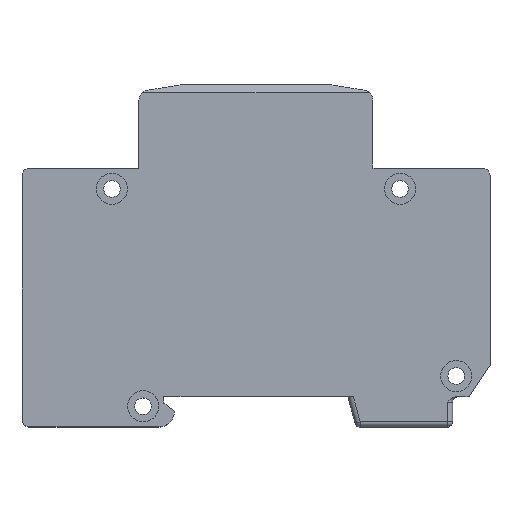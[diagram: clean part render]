
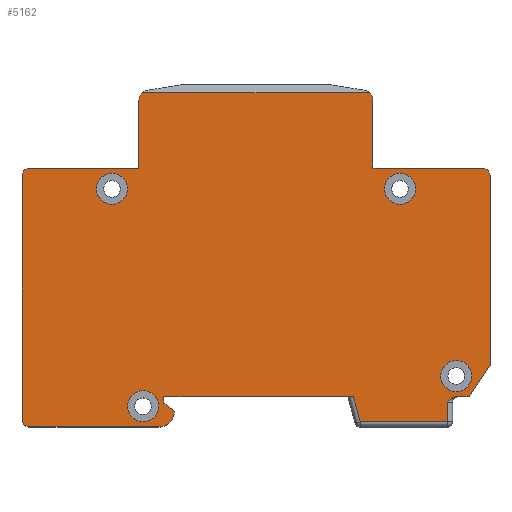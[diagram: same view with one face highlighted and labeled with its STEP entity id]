
A CAD part, top view. The second image highlights one B-rep face of the part: STEP entity #5162.
In plain terms, the highlighted planar face has unit normal (0, 0, 1).
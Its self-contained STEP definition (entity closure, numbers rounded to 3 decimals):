
#51=B_SPLINE_CURVE_WITH_KNOTS('',3,(#8335,#8336,#8337,#8338,#8339,#8340),
 .UNSPECIFIED.,.F.,.F.,(4,2,4),(0.506,0.582,0.7),
 .UNSPECIFIED.);
#76=FACE_BOUND('',#763,.T.);
#77=FACE_BOUND('',#764,.T.);
#78=FACE_BOUND('',#765,.T.);
#79=FACE_BOUND('',#766,.T.);
#191=CIRCLE('',#5438,1.5);
#193=CIRCLE('',#5469,1.5);
#195=CIRCLE('',#5475,3.);
#205=CIRCLE('',#5533,1.5);
#232=CIRCLE('',#5577,2.);
#233=CIRCLE('',#5578,2.);
#234=CIRCLE('',#5579,3.);
#235=CIRCLE('',#5580,3.);
#236=CIRCLE('',#5581,3.);
#237=CIRCLE('',#5582,3.);
#238=CIRCLE('',#5583,3.);
#239=CIRCLE('',#5584,3.);
#240=CIRCLE('',#5585,3.);
#241=CIRCLE('',#5586,3.);
#484=FACE_OUTER_BOUND('',#762,.T.);
#762=EDGE_LOOP('',(#4245,#4246,#4247,#4248,#4249,#4250,#4251,#4252,#4253,
#4254,#4255,#4256,#4257,#4258,#4259,#4260,#4261,#4262,#4263,#4264,#4265,
#4266,#4267));
#763=EDGE_LOOP('',(#4268,#4269));
#764=EDGE_LOOP('',(#4270,#4271));
#765=EDGE_LOOP('',(#4272,#4273));
#766=EDGE_LOOP('',(#4274,#4275));
#1165=LINE('',#7880,#1735);
#1224=LINE('',#7997,#1794);
#1242=LINE('',#8034,#1812);
#1248=LINE('',#8050,#1818);
#1252=LINE('',#8058,#1822);
#1256=LINE('',#8070,#1826);
#1278=LINE('',#8129,#1848);
#1282=LINE('',#8138,#1852);
#1334=LINE('',#8238,#1904);
#1340=LINE('',#8256,#1910);
#1345=LINE('',#8321,#1915);
#1346=LINE('',#8325,#1916);
#1347=LINE('',#8328,#1917);
#1348=LINE('',#8330,#1918);
#1349=LINE('',#8332,#1919);
#1350=LINE('',#8334,#1920);
#1735=VECTOR('',#6279,10.);
#1794=VECTOR('',#6390,10.);
#1812=VECTOR('',#6430,10.);
#1818=VECTOR('',#6448,10.);
#1822=VECTOR('',#6456,10.);
#1826=VECTOR('',#6468,10.);
#1848=VECTOR('',#6532,10.);
#1852=VECTOR('',#6542,10.);
#1904=VECTOR('',#6638,10.);
#1910=VECTOR('',#6660,10.);
#1915=VECTOR('',#6743,10.);
#1916=VECTOR('',#6746,10.);
#1917=VECTOR('',#6749,10.);
#1918=VECTOR('',#6750,10.);
#1919=VECTOR('',#6751,10.);
#1920=VECTOR('',#6752,10.);
#2267=VERTEX_POINT('',#7877);
#2268=VERTEX_POINT('',#7879);
#2270=VERTEX_POINT('',#7887);
#2300=VERTEX_POINT('',#7995);
#2306=VERTEX_POINT('',#8024);
#2308=VERTEX_POINT('',#8032);
#2310=VERTEX_POINT('',#8040);
#2312=VERTEX_POINT('',#8048);
#2314=VERTEX_POINT('',#8056);
#2318=VERTEX_POINT('',#8068);
#2333=VERTEX_POINT('',#8126);
#2334=VERTEX_POINT('',#8128);
#2336=VERTEX_POINT('',#8136);
#2362=VERTEX_POINT('',#8236);
#2364=VERTEX_POINT('',#8244);
#2366=VERTEX_POINT('',#8254);
#2387=VERTEX_POINT('',#8320);
#2388=VERTEX_POINT('',#8322);
#2389=VERTEX_POINT('',#8324);
#2390=VERTEX_POINT('',#8326);
#2391=VERTEX_POINT('',#8329);
#2392=VERTEX_POINT('',#8331);
#2393=VERTEX_POINT('',#8333);
#2394=VERTEX_POINT('',#8341);
#2395=VERTEX_POINT('',#8342);
#2396=VERTEX_POINT('',#8345);
#2397=VERTEX_POINT('',#8346);
#2398=VERTEX_POINT('',#8349);
#2399=VERTEX_POINT('',#8350);
#2400=VERTEX_POINT('',#8353);
#2401=VERTEX_POINT('',#8354);
#2839=EDGE_CURVE('',#2268,#2267,#1165,.T.);
#2844=EDGE_CURVE('',#2270,#2267,#191,.T.);
#2900=EDGE_CURVE('',#2270,#2300,#1224,.T.);
#2916=EDGE_CURVE('',#2306,#2300,#193,.T.);
#2920=EDGE_CURVE('',#2306,#2308,#1242,.T.);
#2924=EDGE_CURVE('',#2308,#2310,#195,.T.);
#2928=EDGE_CURVE('',#2310,#2312,#1248,.T.);
#2932=EDGE_CURVE('',#2312,#2314,#1252,.T.);
#2938=EDGE_CURVE('',#2314,#2318,#1256,.T.);
#2967=EDGE_CURVE('',#2333,#2334,#1278,.T.);
#2972=EDGE_CURVE('',#2333,#2336,#1282,.T.);
#3024=EDGE_CURVE('',#2336,#2362,#1334,.T.);
#3028=EDGE_CURVE('',#2364,#2362,#205,.T.);
#3034=EDGE_CURVE('',#2364,#2366,#1340,.T.);
#3063=EDGE_CURVE('',#2366,#2387,#1345,.T.);
#3064=EDGE_CURVE('',#2388,#2387,#232,.T.);
#3065=EDGE_CURVE('',#2389,#2388,#1346,.T.);
#3066=EDGE_CURVE('',#2390,#2389,#233,.T.);
#3067=EDGE_CURVE('',#2390,#2268,#1347,.T.);
#3068=EDGE_CURVE('',#2391,#2318,#1348,.T.);
#3069=EDGE_CURVE('',#2392,#2391,#1349,.T.);
#3070=EDGE_CURVE('',#2393,#2392,#1350,.T.);
#3071=EDGE_CURVE('',#2334,#2393,#51,.T.);
#3072=EDGE_CURVE('',#2394,#2395,#234,.T.);
#3073=EDGE_CURVE('',#2395,#2394,#235,.T.);
#3074=EDGE_CURVE('',#2396,#2397,#236,.T.);
#3075=EDGE_CURVE('',#2397,#2396,#237,.T.);
#3076=EDGE_CURVE('',#2398,#2399,#238,.T.);
#3077=EDGE_CURVE('',#2399,#2398,#239,.T.);
#3078=EDGE_CURVE('',#2400,#2401,#240,.T.);
#3079=EDGE_CURVE('',#2401,#2400,#241,.T.);
#4245=ORIENTED_EDGE('',*,*,#3028,.F.);
#4246=ORIENTED_EDGE('',*,*,#3034,.T.);
#4247=ORIENTED_EDGE('',*,*,#3063,.T.);
#4248=ORIENTED_EDGE('',*,*,#3064,.F.);
#4249=ORIENTED_EDGE('',*,*,#3065,.F.);
#4250=ORIENTED_EDGE('',*,*,#3066,.F.);
#4251=ORIENTED_EDGE('',*,*,#3067,.T.);
#4252=ORIENTED_EDGE('',*,*,#2839,.T.);
#4253=ORIENTED_EDGE('',*,*,#2844,.F.);
#4254=ORIENTED_EDGE('',*,*,#2900,.T.);
#4255=ORIENTED_EDGE('',*,*,#2916,.F.);
#4256=ORIENTED_EDGE('',*,*,#2920,.T.);
#4257=ORIENTED_EDGE('',*,*,#2924,.T.);
#4258=ORIENTED_EDGE('',*,*,#2928,.T.);
#4259=ORIENTED_EDGE('',*,*,#2932,.T.);
#4260=ORIENTED_EDGE('',*,*,#2938,.T.);
#4261=ORIENTED_EDGE('',*,*,#3068,.F.);
#4262=ORIENTED_EDGE('',*,*,#3069,.F.);
#4263=ORIENTED_EDGE('',*,*,#3070,.F.);
#4264=ORIENTED_EDGE('',*,*,#3071,.F.);
#4265=ORIENTED_EDGE('',*,*,#2967,.F.);
#4266=ORIENTED_EDGE('',*,*,#2972,.T.);
#4267=ORIENTED_EDGE('',*,*,#3024,.T.);
#4268=ORIENTED_EDGE('',*,*,#3072,.T.);
#4269=ORIENTED_EDGE('',*,*,#3073,.T.);
#4270=ORIENTED_EDGE('',*,*,#3074,.T.);
#4271=ORIENTED_EDGE('',*,*,#3075,.T.);
#4272=ORIENTED_EDGE('',*,*,#3076,.T.);
#4273=ORIENTED_EDGE('',*,*,#3077,.T.);
#4274=ORIENTED_EDGE('',*,*,#3078,.T.);
#4275=ORIENTED_EDGE('',*,*,#3079,.T.);
#4930=PLANE('',#5576);
#5162=ADVANCED_FACE('',(#484,#76,#77,#78,#79),#4930,.T.);
#5438=AXIS2_PLACEMENT_3D('',#7889,#6289,#6290);
#5469=AXIS2_PLACEMENT_3D('',#8026,#6421,#6422);
#5475=AXIS2_PLACEMENT_3D('',#8042,#6439,#6440);
#5533=AXIS2_PLACEMENT_3D('',#8246,#6647,#6648);
#5576=AXIS2_PLACEMENT_3D('',#8319,#6741,#6742);
#5577=AXIS2_PLACEMENT_3D('',#8323,#6744,#6745);
#5578=AXIS2_PLACEMENT_3D('',#8327,#6747,#6748);
#5579=AXIS2_PLACEMENT_3D('',#8343,#6753,#6754);
#5580=AXIS2_PLACEMENT_3D('',#8344,#6755,#6756);
#5581=AXIS2_PLACEMENT_3D('',#8347,#6757,#6758);
#5582=AXIS2_PLACEMENT_3D('',#8348,#6759,#6760);
#5583=AXIS2_PLACEMENT_3D('',#8351,#6761,#6762);
#5584=AXIS2_PLACEMENT_3D('',#8352,#6763,#6764);
#5585=AXIS2_PLACEMENT_3D('',#8355,#6765,#6766);
#5586=AXIS2_PLACEMENT_3D('',#8356,#6767,#6768);
#6279=DIRECTION('',(-1.,0.,0.));
#6289=DIRECTION('center_axis',(0.,0.,-1.));
#6290=DIRECTION('ref_axis',(-0.707,0.707,0.));
#6390=DIRECTION('',(0.,-1.,0.));
#6421=DIRECTION('center_axis',(0.,0.,-1.));
#6422=DIRECTION('ref_axis',(-0.707,-0.707,0.));
#6430=DIRECTION('',(1.,0.,0.));
#6439=DIRECTION('center_axis',(0.,0.,1.));
#6440=DIRECTION('ref_axis',(0.,-1.,0.));
#6448=DIRECTION('',(-0.781,0.625,0.));
#6456=DIRECTION('',(0.,1.,0.));
#6468=DIRECTION('',(1.,0.,0.));
#6532=DIRECTION('',(-1.,0.,0.));
#6542=DIRECTION('',(0.555,0.832,0.));
#6638=DIRECTION('',(0.,1.,0.));
#6647=DIRECTION('center_axis',(0.,0.,-1.));
#6648=DIRECTION('ref_axis',(0.707,0.707,0.));
#6660=DIRECTION('',(-1.,0.,0.));
#6741=DIRECTION('center_axis',(0.,0.,1.));
#6742=DIRECTION('ref_axis',(1.,0.,0.));
#6743=DIRECTION('',(0.,1.,0.));
#6744=DIRECTION('center_axis',(0.,0.,-1.));
#6745=DIRECTION('ref_axis',(0.762,0.648,0.));
#6746=DIRECTION('',(1.,0.,0.));
#6747=DIRECTION('center_axis',(0.,0.,-1.));
#6748=DIRECTION('ref_axis',(-0.762,0.648,0.));
#6749=DIRECTION('',(0.,-1.,0.));
#6750=DIRECTION('',(-0.259,0.966,0.));
#6751=DIRECTION('',(-1.,0.,0.));
#6752=DIRECTION('',(0.,-1.,0.));
#6753=DIRECTION('center_axis',(0.,0.,-1.));
#6754=DIRECTION('ref_axis',(1.,0.,0.));
#6755=DIRECTION('center_axis',(0.,0.,-1.));
#6756=DIRECTION('ref_axis',(1.,0.,0.));
#6757=DIRECTION('center_axis',(0.,0.,-1.));
#6758=DIRECTION('ref_axis',(1.,0.,0.));
#6759=DIRECTION('center_axis',(0.,0.,-1.));
#6760=DIRECTION('ref_axis',(1.,0.,0.));
#6761=DIRECTION('center_axis',(0.,0.,-1.));
#6762=DIRECTION('ref_axis',(1.,0.,0.));
#6763=DIRECTION('center_axis',(0.,0.,-1.));
#6764=DIRECTION('ref_axis',(1.,0.,0.));
#6765=DIRECTION('center_axis',(0.,0.,-1.));
#6766=DIRECTION('ref_axis',(1.,0.,0.));
#6767=DIRECTION('center_axis',(0.,0.,-1.));
#6768=DIRECTION('ref_axis',(1.,0.,0.));
#7877=CARTESIAN_POINT('',(-43.5,14.,17.5));
#7879=CARTESIAN_POINT('',(-22.5,14.,17.5));
#7880=CARTESIAN_POINT('',(-22.5,14.,17.5));
#7887=CARTESIAN_POINT('',(-45.,12.5,17.5));
#7889=CARTESIAN_POINT('Origin',(-43.5,12.5,17.5));
#7995=CARTESIAN_POINT('',(-45.,-34.3,17.5));
#7997=CARTESIAN_POINT('',(-45.,14.,17.5));
#8024=CARTESIAN_POINT('',(-43.5,-35.8,17.5));
#8026=CARTESIAN_POINT('Origin',(-43.5,-34.3,17.5));
#8032=CARTESIAN_POINT('',(-18.7,-35.8,17.5));
#8034=CARTESIAN_POINT('',(-45.,-35.8,17.5));
#8040=CARTESIAN_POINT('',(-15.7,-32.8,17.5));
#8042=CARTESIAN_POINT('Origin',(-18.7,-32.8,17.5));
#8048=CARTESIAN_POINT('',(-17.7,-31.2,17.5));
#8050=CARTESIAN_POINT('',(-15.7,-32.8,17.5));
#8056=CARTESIAN_POINT('',(-17.7,-30.,17.5));
#8058=CARTESIAN_POINT('',(-17.7,-31.2,17.5));
#8068=CARTESIAN_POINT('',(18.735,-30.,17.5));
#8070=CARTESIAN_POINT('',(-17.7,-30.,17.5));
#8126=CARTESIAN_POINT('',(41.,-30.,17.5));
#8128=CARTESIAN_POINT('',(38.532,-30.,17.5));
#8129=CARTESIAN_POINT('',(18.592,-30.,17.5));
#8136=CARTESIAN_POINT('',(45.,-24.,17.5));
#8138=CARTESIAN_POINT('',(41.,-30.,17.5));
#8236=CARTESIAN_POINT('',(45.,12.5,17.5));
#8238=CARTESIAN_POINT('',(45.,-24.,17.5));
#8244=CARTESIAN_POINT('',(43.5,14.,17.5));
#8246=CARTESIAN_POINT('Origin',(43.5,12.5,17.5));
#8254=CARTESIAN_POINT('',(22.5,14.,17.5));
#8256=CARTESIAN_POINT('',(45.,14.,17.5));
#8319=CARTESIAN_POINT('Origin',(-0.615,-5.122,17.5));
#8320=CARTESIAN_POINT('',(22.5,26.999,17.5));
#8321=CARTESIAN_POINT('',(22.5,14.,17.5));
#8322=CARTESIAN_POINT('',(21.821,28.5,17.5));
#8323=CARTESIAN_POINT('Origin',(20.5,26.999,17.5));
#8324=CARTESIAN_POINT('',(-21.821,28.5,17.5));
#8325=CARTESIAN_POINT('',(10.942,28.5,17.5));
#8326=CARTESIAN_POINT('',(-22.5,26.999,17.5));
#8327=CARTESIAN_POINT('Origin',(-20.5,26.999,17.5));
#8328=CARTESIAN_POINT('',(-22.5,30.,17.5));
#8329=CARTESIAN_POINT('',(20.021,-34.8,17.5));
#8330=CARTESIAN_POINT('',(14.943,-15.846,17.5));
#8331=CARTESIAN_POINT('',(36.8,-34.8,17.5));
#8332=CARTESIAN_POINT('',(9.319,-34.8,17.5));
#8333=CARTESIAN_POINT('',(36.8,-31.,17.5));
#8334=CARTESIAN_POINT('',(36.8,-20.461,17.5));
#8335=CARTESIAN_POINT('Ctrl Pts',(38.532,-30.,17.5));
#8336=CARTESIAN_POINT('Ctrl Pts',(38.277,-30.,17.5));
#8337=CARTESIAN_POINT('Ctrl Pts',(37.985,-30.09,17.5));
#8338=CARTESIAN_POINT('Ctrl Pts',(37.415,-30.396,17.5));
#8339=CARTESIAN_POINT('Ctrl Pts',(37.077,-30.723,17.5));
#8340=CARTESIAN_POINT('Ctrl Pts',(36.8,-31.,17.5));
#8341=CARTESIAN_POINT('',(41.5,-26.,17.5));
#8342=CARTESIAN_POINT('',(35.5,-26.,17.5));
#8343=CARTESIAN_POINT('Origin',(38.5,-26.,17.5));
#8344=CARTESIAN_POINT('Origin',(38.5,-26.,17.5));
#8345=CARTESIAN_POINT('',(30.7,10.,17.5));
#8346=CARTESIAN_POINT('',(24.7,10.,17.5));
#8347=CARTESIAN_POINT('Origin',(27.7,10.,17.5));
#8348=CARTESIAN_POINT('Origin',(27.7,10.,17.5));
#8349=CARTESIAN_POINT('',(-24.7,10.,17.5));
#8350=CARTESIAN_POINT('',(-30.7,10.,17.5));
#8351=CARTESIAN_POINT('Origin',(-27.7,10.,17.5));
#8352=CARTESIAN_POINT('Origin',(-27.7,10.,17.5));
#8353=CARTESIAN_POINT('',(-18.7,-31.8,17.5));
#8354=CARTESIAN_POINT('',(-24.7,-31.8,17.5));
#8355=CARTESIAN_POINT('Origin',(-21.7,-31.8,17.5));
#8356=CARTESIAN_POINT('Origin',(-21.7,-31.8,17.5));
